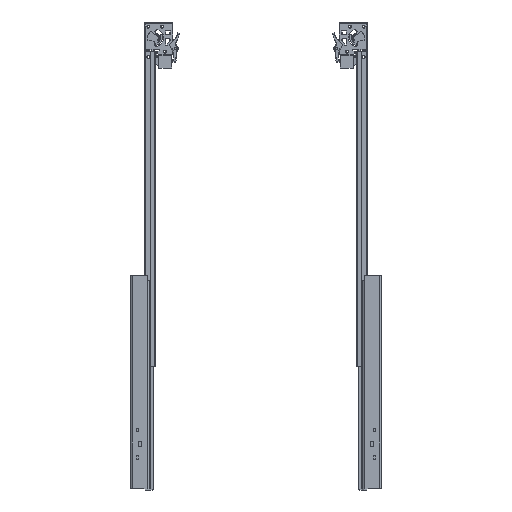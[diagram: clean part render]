
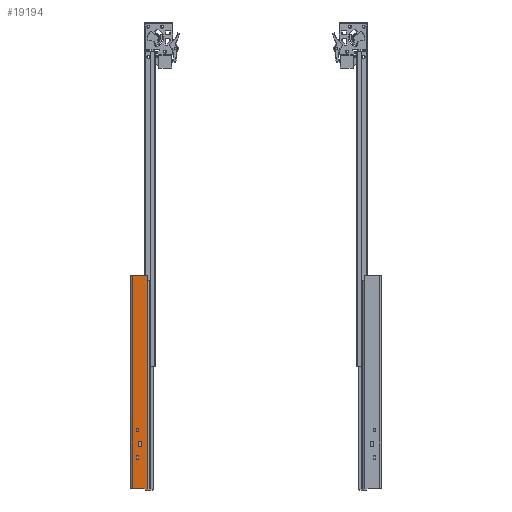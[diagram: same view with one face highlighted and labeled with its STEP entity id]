
A CAD part, front view. The second image highlights one B-rep face of the part: STEP entity #19194.
In plain terms, the highlighted planar face has unit normal (0, -1, 0).
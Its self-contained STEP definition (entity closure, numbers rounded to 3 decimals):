
#633=FACE_BOUND('',#3857,.T.);
#634=FACE_BOUND('',#3858,.T.);
#635=FACE_BOUND('',#3859,.T.);
#1393=CIRCLE('',#20430,0.5);
#1394=CIRCLE('',#20431,0.5);
#2678=FACE_OUTER_BOUND('',#3856,.T.);
#3856=EDGE_LOOP('',(#12321,#12322,#12323,#12324,#12325,#12326,#12327,#12328,
#12329,#12330));
#3857=EDGE_LOOP('',(#12331,#12332,#12333,#12334));
#3858=EDGE_LOOP('',(#12335,#12336,#12337,#12338));
#3859=EDGE_LOOP('',(#12339,#12340,#12341,#12342));
#5309=LINE('',#28952,#6581);
#5313=LINE('',#28960,#6585);
#5316=LINE('',#28966,#6588);
#5319=LINE('',#28971,#6591);
#5321=LINE('',#28977,#6593);
#5325=LINE('',#28985,#6597);
#5328=LINE('',#28991,#6600);
#5331=LINE('',#28996,#6603);
#5333=LINE('',#29002,#6605);
#5337=LINE('',#29010,#6609);
#5340=LINE('',#29016,#6612);
#5343=LINE('',#29021,#6615);
#5345=LINE('',#29027,#6617);
#5360=LINE('',#29075,#6632);
#5368=LINE('',#29095,#6640);
#5369=LINE('',#29099,#6641);
#5370=LINE('',#29101,#6642);
#5371=LINE('',#29103,#6643);
#5372=LINE('',#29107,#6644);
#5373=LINE('',#29110,#6645);
#6581=VECTOR('',#22826,6.);
#6585=VECTOR('',#22832,3.5);
#6588=VECTOR('',#22837,6.);
#6591=VECTOR('',#22842,3.5);
#6593=VECTOR('',#22848,6.);
#6597=VECTOR('',#22854,3.5);
#6600=VECTOR('',#22859,6.);
#6603=VECTOR('',#22864,3.5);
#6605=VECTOR('',#22870,8.);
#6609=VECTOR('',#22876,5.);
#6612=VECTOR('',#22881,8.);
#6615=VECTOR('',#22886,5.);
#6617=VECTOR('',#22892,4.243);
#6632=VECTOR('',#22927,18.);
#6640=VECTOR('',#22947,340.);
#6641=VECTOR('',#22952,4.);
#6642=VECTOR('',#22953,335.5);
#6643=VECTOR('',#22954,0.5);
#6644=VECTOR('',#22957,6.5);
#6645=VECTOR('',#22960,23.5);
#7853=VERTEX_POINT('',#28950);
#7854=VERTEX_POINT('',#28951);
#7857=VERTEX_POINT('',#28959);
#7859=VERTEX_POINT('',#28965);
#7861=VERTEX_POINT('',#28975);
#7862=VERTEX_POINT('',#28976);
#7865=VERTEX_POINT('',#28984);
#7867=VERTEX_POINT('',#28990);
#7869=VERTEX_POINT('',#29000);
#7870=VERTEX_POINT('',#29001);
#7873=VERTEX_POINT('',#29009);
#7875=VERTEX_POINT('',#29015);
#7877=VERTEX_POINT('',#29025);
#7878=VERTEX_POINT('',#29026);
#7901=VERTEX_POINT('',#29074);
#7907=VERTEX_POINT('',#29094);
#7908=VERTEX_POINT('',#29098);
#7909=VERTEX_POINT('',#29100);
#7910=VERTEX_POINT('',#29102);
#7911=VERTEX_POINT('',#29104);
#7912=VERTEX_POINT('',#29106);
#7913=VERTEX_POINT('',#29108);
#9511=EDGE_CURVE('',#7853,#7854,#5309,.T.);
#9515=EDGE_CURVE('',#7854,#7857,#5313,.T.);
#9518=EDGE_CURVE('',#7857,#7859,#5316,.T.);
#9521=EDGE_CURVE('',#7859,#7853,#5319,.T.);
#9523=EDGE_CURVE('',#7861,#7862,#5321,.T.);
#9527=EDGE_CURVE('',#7862,#7865,#5325,.T.);
#9530=EDGE_CURVE('',#7865,#7867,#5328,.T.);
#9533=EDGE_CURVE('',#7867,#7861,#5331,.T.);
#9535=EDGE_CURVE('',#7869,#7870,#5333,.T.);
#9539=EDGE_CURVE('',#7870,#7873,#5337,.T.);
#9542=EDGE_CURVE('',#7873,#7875,#5340,.T.);
#9545=EDGE_CURVE('',#7875,#7869,#5343,.T.);
#9547=EDGE_CURVE('',#7877,#7878,#5345,.T.);
#9571=EDGE_CURVE('',#7901,#7877,#5360,.T.);
#9581=EDGE_CURVE('',#7907,#7901,#5368,.T.);
#9583=EDGE_CURVE('',#7908,#7878,#5369,.T.);
#9584=EDGE_CURVE('',#7909,#7908,#5370,.T.);
#9585=EDGE_CURVE('',#7909,#7910,#5371,.T.);
#9586=EDGE_CURVE('',#7911,#7910,#1393,.T.);
#9587=EDGE_CURVE('',#7911,#7912,#5372,.T.);
#9588=EDGE_CURVE('',#7913,#7912,#1394,.T.);
#9589=EDGE_CURVE('',#7907,#7913,#5373,.T.);
#12321=ORIENTED_EDGE('',*,*,#9571,.T.);
#12322=ORIENTED_EDGE('',*,*,#9547,.T.);
#12323=ORIENTED_EDGE('',*,*,#9583,.F.);
#12324=ORIENTED_EDGE('',*,*,#9584,.F.);
#12325=ORIENTED_EDGE('',*,*,#9585,.T.);
#12326=ORIENTED_EDGE('',*,*,#9586,.F.);
#12327=ORIENTED_EDGE('',*,*,#9587,.T.);
#12328=ORIENTED_EDGE('',*,*,#9588,.F.);
#12329=ORIENTED_EDGE('',*,*,#9589,.F.);
#12330=ORIENTED_EDGE('',*,*,#9581,.T.);
#12331=ORIENTED_EDGE('',*,*,#9511,.T.);
#12332=ORIENTED_EDGE('',*,*,#9515,.T.);
#12333=ORIENTED_EDGE('',*,*,#9518,.T.);
#12334=ORIENTED_EDGE('',*,*,#9521,.T.);
#12335=ORIENTED_EDGE('',*,*,#9523,.T.);
#12336=ORIENTED_EDGE('',*,*,#9527,.T.);
#12337=ORIENTED_EDGE('',*,*,#9530,.T.);
#12338=ORIENTED_EDGE('',*,*,#9533,.T.);
#12339=ORIENTED_EDGE('',*,*,#9535,.T.);
#12340=ORIENTED_EDGE('',*,*,#9539,.T.);
#12341=ORIENTED_EDGE('',*,*,#9542,.T.);
#12342=ORIENTED_EDGE('',*,*,#9545,.T.);
#17652=PLANE('',#20429);
#19194=ADVANCED_FACE('',(#2678,#633,#634,#635),#17652,.T.);
#20429=AXIS2_PLACEMENT_3D('',#29097,#22950,#22951);
#20430=AXIS2_PLACEMENT_3D('',#29105,#22955,#22956);
#20431=AXIS2_PLACEMENT_3D('',#29109,#22958,#22959);
#22826=DIRECTION('',(0.,0.,1.));
#22832=DIRECTION('',(1.,0.,0.));
#22837=DIRECTION('',(0.,0.,-1.));
#22842=DIRECTION('',(-1.,0.,0.));
#22848=DIRECTION('',(0.,0.,1.));
#22854=DIRECTION('',(1.,0.,0.));
#22859=DIRECTION('',(0.,0.,-1.));
#22864=DIRECTION('',(-1.,0.,0.));
#22870=DIRECTION('',(0.,0.,1.));
#22876=DIRECTION('',(1.,0.,0.));
#22881=DIRECTION('',(0.,0.,-1.));
#22886=DIRECTION('',(-1.,0.,0.));
#22892=DIRECTION('',(0.707,0.,-0.707));
#22927=DIRECTION('',(1.,0.,0.));
#22947=DIRECTION('',(0.,0.,-1.));
#22950=DIRECTION('center_axis',(0.,-1.,0.));
#22951=DIRECTION('ref_axis',(-1.,0.,0.));
#22952=DIRECTION('',(-1.,0.,0.));
#22953=DIRECTION('',(0.,0.,-1.));
#22954=DIRECTION('',(-1.,0.,0.));
#22955=DIRECTION('center_axis',(0.,-1.,0.));
#22956=DIRECTION('ref_axis',(-0.707,0.,-0.707));
#22957=DIRECTION('',(0.,0.,1.));
#22958=DIRECTION('center_axis',(0.,1.,0.));
#22959=DIRECTION('ref_axis',(0.707,0.,0.707));
#22960=DIRECTION('',(1.,0.,0.));
#28950=CARTESIAN_POINT('',(9.,0.,-250.));
#28951=CARTESIAN_POINT('',(9.,0.,-244.));
#28952=CARTESIAN_POINT('',(9.,0.,-122.));
#28959=CARTESIAN_POINT('',(12.5,0.,-244.));
#28960=CARTESIAN_POINT('',(19.75,0.,-244.));
#28965=CARTESIAN_POINT('',(12.5,0.,-250.));
#28966=CARTESIAN_POINT('',(12.5,0.,-125.));
#28971=CARTESIAN_POINT('',(18.,0.,-250.));
#28975=CARTESIAN_POINT('',(9.,0.,-294.));
#28976=CARTESIAN_POINT('',(9.,0.,-288.));
#28977=CARTESIAN_POINT('',(9.,0.,-144.));
#28984=CARTESIAN_POINT('',(12.5,0.,-288.));
#28985=CARTESIAN_POINT('',(19.75,0.,-288.));
#28990=CARTESIAN_POINT('',(12.5,0.,-294.));
#28991=CARTESIAN_POINT('',(12.5,0.,-147.));
#28996=CARTESIAN_POINT('',(18.,0.,-294.));
#29000=CARTESIAN_POINT('',(12.5,0.,-273.));
#29001=CARTESIAN_POINT('',(12.5,0.,-265.));
#29002=CARTESIAN_POINT('',(12.5,0.,-132.5));
#29009=CARTESIAN_POINT('',(17.5,0.,-265.));
#29010=CARTESIAN_POINT('',(22.25,0.,-265.));
#29015=CARTESIAN_POINT('',(17.5,0.,-273.));
#29016=CARTESIAN_POINT('',(17.5,0.,-136.5));
#29021=CARTESIAN_POINT('',(19.75,0.,-273.));
#29025=CARTESIAN_POINT('',(20.,0.,-340.));
#29026=CARTESIAN_POINT('',(23.,0.,-343.));
#29027=CARTESIAN_POINT('',(-63.25,0.,-256.75));
#29074=CARTESIAN_POINT('',(2.,0.,-340.));
#29075=CARTESIAN_POINT('',(13.5,0.,-340.));
#29094=CARTESIAN_POINT('',(2.,0.,0.));
#29095=CARTESIAN_POINT('',(2.,0.,0.));
#29097=CARTESIAN_POINT('Origin',(27.,0.,0.));
#29098=CARTESIAN_POINT('',(27.,0.,-343.));
#29099=CARTESIAN_POINT('',(2.,0.,-343.));
#29100=CARTESIAN_POINT('',(27.,0.,-7.5));
#29101=CARTESIAN_POINT('',(27.,0.,0.));
#29102=CARTESIAN_POINT('',(26.5,0.,-7.5));
#29103=CARTESIAN_POINT('',(30.,0.,-7.5));
#29104=CARTESIAN_POINT('',(26.,0.,-7.));
#29105=CARTESIAN_POINT('Origin',(26.5,0.,
-7.));
#29106=CARTESIAN_POINT('',(26.,0.,-0.5));
#29107=CARTESIAN_POINT('',(26.,0.,-3.75));
#29108=CARTESIAN_POINT('',(25.5,0.,0.));
#29109=CARTESIAN_POINT('Origin',(25.5,0.,
-0.5));
#29110=CARTESIAN_POINT('',(2.,0.,0.));
